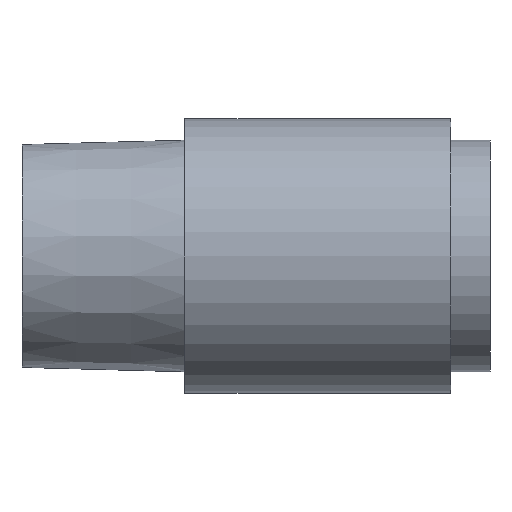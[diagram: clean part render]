
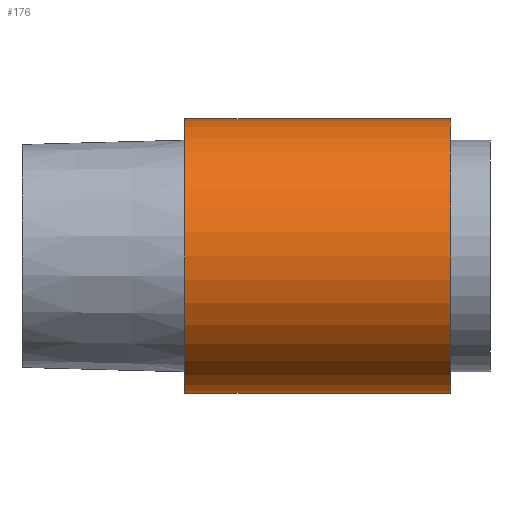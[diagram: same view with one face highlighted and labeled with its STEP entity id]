
A CAD part, left-side view. The second image highlights one B-rep face of the part: STEP entity #176.
In plain terms, the highlighted cylindrical face has radius 16 mm (diameter 32 mm), a partial arc.
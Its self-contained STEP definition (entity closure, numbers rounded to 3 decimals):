
#7 = DIRECTION ( 'NONE',  ( 0., -1., 0. ) ) ;
#9 = EDGE_CURVE ( 'NONE', #98, #345, #284, .T. ) ;
#15 = CIRCLE ( 'NONE', #23, 16. ) ;
#16 = DIRECTION ( 'NONE',  ( 0., -1., 0. ) ) ;
#20 = CARTESIAN_POINT ( 'NONE',  ( 0., 11., 0. ) ) ;
#23 = AXIS2_PLACEMENT_3D ( 'NONE', #20, #182, #188 ) ;
#33 = CARTESIAN_POINT ( 'NONE',  ( 0., 11., 16. ) ) ;
#59 = VECTOR ( 'NONE', #352, 1000. ) ;
#67 = CARTESIAN_POINT ( 'NONE',  ( 0., 0., 16. ) ) ;
#74 = CARTESIAN_POINT ( 'NONE',  ( 0., 0., -16. ) ) ;
#89 = LINE ( 'NONE', #67, #59 ) ;
#93 = ORIENTED_EDGE ( 'NONE', *, *, #163, .F. ) ;
#98 = VERTEX_POINT ( 'NONE', #134 ) ;
#117 = CYLINDRICAL_SURFACE ( 'NONE', #382, 16. ) ;
#122 = DIRECTION ( 'NONE',  ( 0., -1., 0. ) ) ;
#126 = ORIENTED_EDGE ( 'NONE', *, *, #411, .F. ) ;
#134 = CARTESIAN_POINT ( 'NONE',  ( 0., 42., -16. ) ) ;
#143 = DIRECTION ( 'NONE',  ( 0., 0., -1. ) ) ;
#149 = VECTOR ( 'NONE', #7, 1000. ) ;
#151 = AXIS2_PLACEMENT_3D ( 'NONE', #457, #122, #268 ) ;
#156 = CARTESIAN_POINT ( 'NONE',  ( 0., 0., 0. ) ) ;
#162 = ORIENTED_EDGE ( 'NONE', *, *, #9, .T. ) ;
#163 = EDGE_CURVE ( 'NONE', #338, #345, #15, .T. ) ;
#176 = ADVANCED_FACE ( 'NONE', ( #328 ), #117, .T. ) ;
#182 = DIRECTION ( 'NONE',  ( 0., -1., 0. ) ) ;
#188 = DIRECTION ( 'NONE',  ( 0., 0., -1. ) ) ;
#216 = ORIENTED_EDGE ( 'NONE', *, *, #440, .T. ) ;
#266 = CIRCLE ( 'NONE', #151, 16. ) ;
#268 = DIRECTION ( 'NONE',  ( 0., 0., -1. ) ) ;
#276 = EDGE_LOOP ( 'NONE', ( #126, #216, #162, #93 ) ) ;
#284 = LINE ( 'NONE', #74, #149 ) ;
#326 = VERTEX_POINT ( 'NONE', #341 ) ;
#328 = FACE_OUTER_BOUND ( 'NONE', #276, .T. ) ;
#338 = VERTEX_POINT ( 'NONE', #33 ) ;
#341 = CARTESIAN_POINT ( 'NONE',  ( 0., 42., 16. ) ) ;
#345 = VERTEX_POINT ( 'NONE', #450 ) ;
#352 = DIRECTION ( 'NONE',  ( 0., -1., 0. ) ) ;
#382 = AXIS2_PLACEMENT_3D ( 'NONE', #156, #16, #143 ) ;
#411 = EDGE_CURVE ( 'NONE', #326, #338, #89, .T. ) ;
#440 = EDGE_CURVE ( 'NONE', #326, #98, #266, .T. ) ;
#450 = CARTESIAN_POINT ( 'NONE',  ( 0., 11., -16. ) ) ;
#457 = CARTESIAN_POINT ( 'NONE',  ( 0., 42., 0. ) ) ;
